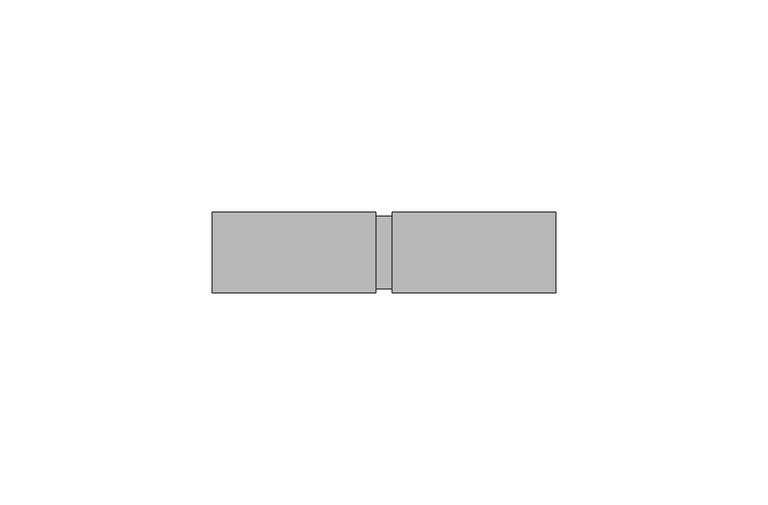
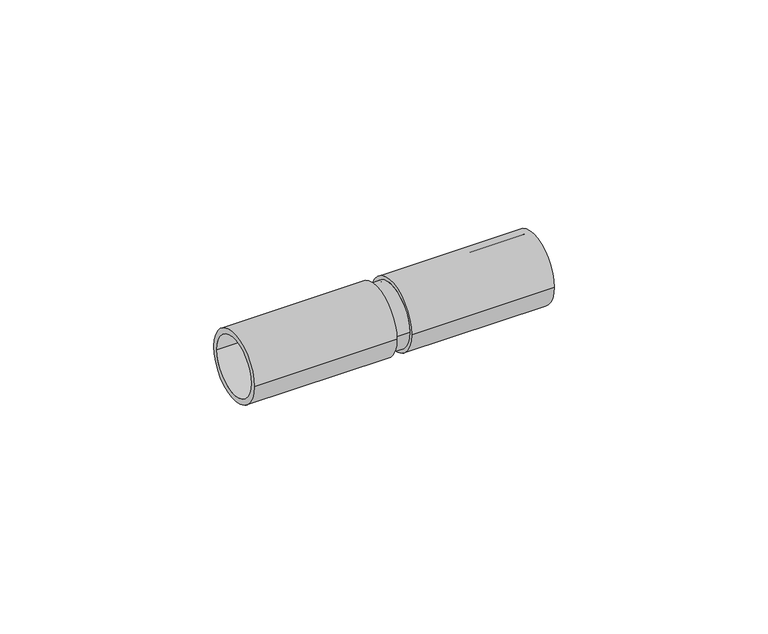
"""IFC4 building model written with IfcOpenShell, lengths in millimetres: cable carrier fitting geometry."""

from ifc_helpers import new_model, si_unit, frame, origin, place, context, project, spatial, polyline, circle_curve, source, transform, mapped, element, save
from ifc_brep_helpers import plane_surface, cylinder_surface, revolved_surface, advanced_brep


def cable_carrier_fitting_bf89c065(model_context):
    return source(origin(), model_context, "Body", "AdvancedBrep", [
        advanced_brep(
        [(-40.5, -9.5, 0.0), (-40.5, 9.5, 0.0), (-40.5, -8.0, 0.0), (-40.5, 8.0, 0.0), (-2.0, -9.5, 0.0), (-2.0, 9.5, 0.0), (-2.0, -8.5, 0.0), (-2.0, 8.5, 0.0), (-2.0, 8.0, 0.0), (-2.0, -8.0, 0.0), (2.0, -8.0, 0.0), (2.0, 8.0, 0.0), (2.0, -8.5, 0.0), (2.0, 8.5, 0.0), (2.0, -9.5, 0.0), (2.0, 9.5, 0.0), (40.5, -9.5, 0.0), (40.5, 9.5, 0.0), (40.5, -8.0, 0.0), (40.5, 8.0, 0.0)],
        [
            (0, 1, circle_curve(frame((-40.5, 0.0, 0.0), z_axis=(-1.0, 0.0, 0.0), x_axis=(0.0, 1.0, 0.0)), 9.5)),
            (1, 0, circle_curve(frame((-40.5, 0.0, 0.0), z_axis=(-1.0, 0.0, 0.0), x_axis=(0.0, 1.0, 0.0)), 9.5)),
            (2, 3, circle_curve(frame((-40.5, 0.0, 0.0), z_axis=(1.0, 0.0, 0.0), x_axis=(0.0, 1.0, 0.0)), 8.0)),
            (3, 2, circle_curve(frame((-40.5, 0.0, 0.0), z_axis=(1.0, 0.0, 0.0), x_axis=(0.0, 1.0, 0.0)), 8.0)),
            (4, 5, circle_curve(frame((-2.0, 0.0, 0.0), z_axis=(1.0, 0.0, 0.0), x_axis=(0.0, 1.0, 0.0)), 9.5)),
            (5, 4, circle_curve(frame((-2.0, 0.0, 0.0), z_axis=(1.0, 0.0, 0.0), x_axis=(0.0, 1.0, 0.0)), 9.5)),
            (6, 7, circle_curve(frame((-2.0, 0.0, 0.0), z_axis=(-1.0, 0.0, 0.0), x_axis=(0.0, 1.0, 0.0)), 8.5)),
            (7, 6, circle_curve(frame((-2.0, 0.0, 0.0), z_axis=(-1.0, 0.0, 0.0), x_axis=(0.0, 1.0, 0.0)), 8.5)),
            (3, 8),
            (8, 9, circle_curve(frame((-2.0, 0.0, 0.0), z_axis=(1.0, 0.0, 0.0), x_axis=(0.0, 1.0, 0.0)), 8.0)),
            (9, 2),
            (9, 8, circle_curve(frame((-2.0, 0.0, 0.0), z_axis=(1.0, 0.0, 0.0), x_axis=(0.0, 1.0, 0.0)), 8.0)),
            (1, 5),
            (4, 0),
            (9, 10),
            (10, 11, circle_curve(frame((2.0, 0.0, 0.0), z_axis=(1.0, 0.0, 0.0), x_axis=(0.0, 1.0, 0.0)), 8.0)),
            (11, 8),
            (11, 10, circle_curve(frame((2.0, 0.0, 0.0), z_axis=(1.0, 0.0, 0.0), x_axis=(0.0, 1.0, 0.0)), 8.0)),
            (6, 12),
            (12, 13, circle_curve(frame((2.0, 0.0, 0.0), z_axis=(-1.0, 0.0, 0.0), x_axis=(0.0, 1.0, 0.0)), 8.5)),
            (13, 7),
            (13, 12, circle_curve(frame((2.0, 0.0, 0.0), z_axis=(-1.0, 0.0, 0.0), x_axis=(0.0, 1.0, 0.0)), 8.5)),
            (14, 15, circle_curve(frame((2.0, 0.0, 0.0), z_axis=(-1.0, 0.0, 0.0), x_axis=(0.0, 1.0, 0.0)), 9.5)),
            (15, 14, circle_curve(frame((2.0, 0.0, 0.0), z_axis=(-1.0, 0.0, 0.0), x_axis=(0.0, 1.0, 0.0)), 9.5)),
            (16, 17, circle_curve(frame((40.5, 0.0, 0.0), z_axis=(1.0, 0.0, 0.0), x_axis=(0.0, 1.0, 0.0)), 9.5)),
            (17, 16, circle_curve(frame((40.5, 0.0, 0.0), z_axis=(1.0, 0.0, 0.0), x_axis=(0.0, 1.0, 0.0)), 9.5)),
            (18, 19, circle_curve(frame((40.5, 0.0, 0.0), z_axis=(-1.0, 0.0, 0.0), x_axis=(0.0, 1.0, 0.0)), 8.0)),
            (19, 18, circle_curve(frame((40.5, 0.0, 0.0), z_axis=(-1.0, 0.0, 0.0), x_axis=(0.0, 1.0, 0.0)), 8.0)),
            (14, 16),
            (17, 15),
            (19, 11),
            (10, 18),
        ],
        [
            plane_surface(frame((-40.5, 0.0, 0.0), z_axis=(-1.0, 0.0, 0.0), x_axis=(0.0, 0.0, 1.0))),
            plane_surface(frame((-2.0, 0.0, 0.0), z_axis=(1.0, 0.0, 0.0), x_axis=(0.0, 0.0, 1.0))),
            revolved_surface(polyline([(-2.0, 8.0, 0.0), (-40.5, 8.0, 0.0)]), (-40.5, 0.0, 0.0), (1.0, 0.0, 0.0)),
            cylinder_surface(frame((-40.5, 0.0, 0.0), z_axis=(-1.0, 0.0, 0.0), x_axis=(0.0, 1.0, 0.0)), 9.5),
            revolved_surface(polyline([(2.0, 8.0, 0.0), (-2.0, 8.0, 0.0)]), (-2.0, 0.0, 0.0), (1.0, 0.0, 0.0)),
            cylinder_surface(frame((-2.0, 0.0, 0.0), z_axis=(-1.0, 0.0, 0.0), x_axis=(0.0, 1.0, 0.0)), 8.5),
            plane_surface(frame((2.0, 0.0, 0.0), z_axis=(-1.0, 0.0, 0.0), x_axis=(0.0, 0.0, 1.0))),
            plane_surface(frame((40.5, 0.0, 0.0), z_axis=(1.0, 0.0, 0.0), x_axis=(0.0, 0.0, 1.0))),
            cylinder_surface(frame((2.0, 0.0, 0.0), z_axis=(-1.0, 0.0, 0.0), x_axis=(0.0, 1.0, 0.0)), 9.5),
            revolved_surface(polyline([(40.5, 8.0, 0.0), (2.0, 8.0, 0.0)]), (2.0, 0.0, 0.0), (1.0, 0.0, 0.0)),
        ],
        [
            (0, [[1, 2], [3, 4]]),
            (1, [[5, 6], [7, 8]]),
            (2, [[-4, 9, 10, 11]]),
            (2, [[-3, -11, 12, -9]]),
            (3, [[-2, 13, -5, 14]]),
            (3, [[-1, -14, -6, -13]]),
            (4, [[15, 16, 17, -12]]),
            (4, [[-15, -10, -17, 18]]),
            (5, [[19, 20, 21, -7]]),
            (5, [[-19, -8, -21, 22]]),
            (6, [[23, 24], [-20, -22]]),
            (7, [[25, 26], [27, 28]]),
            (8, [[-23, 29, -26, 30]]),
            (8, [[-24, -30, -25, -29]]),
            (9, [[-28, 31, -16, 32]]),
            (9, [[-27, -32, -18, -31]]),
        ],
    ),
    ])


if __name__ == "__main__":
    model = new_model("IFC4")
    model_context = context("Model", 3, world=origin())
    ifc_project = project(units=[si_unit("LENGTHUNIT", "METRE", prefix="MILLI")], contexts=[model_context])
    site = spatial("IfcSite", under=ifc_project)
    building = spatial("IfcBuilding", under=site)
    placement = place(None, origin())
    cable_carrier_fitting_shape = cable_carrier_fitting_bf89c065(model_context)
    element("IfcCableCarrierFitting", 1, at=placement, inside=building, context=model_context, shape_type="MappedRepresentation", body=[
        mapped(cable_carrier_fitting_shape, transform((0.0, 0.0, 0.0), x_axis=(1.0, 0.0, 0.0), y_axis=(0.0, 1.0, 0.0), z_axis=(0.0, 0.0, 1.0))),
    ])
    save(model, "model.ifc")
